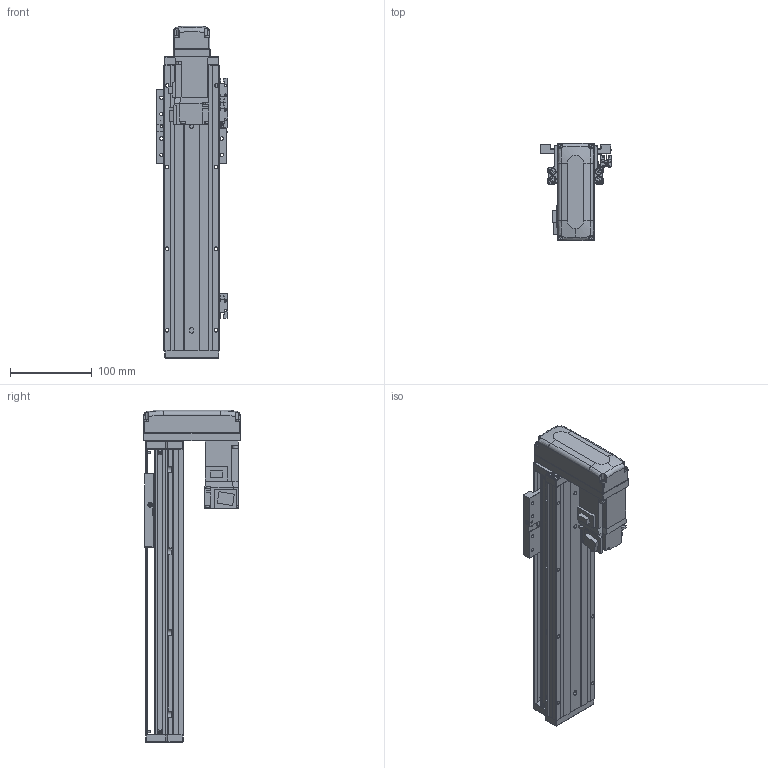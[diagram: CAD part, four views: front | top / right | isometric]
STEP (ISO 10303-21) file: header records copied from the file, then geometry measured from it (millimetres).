
FILE_DESCRIPTION (( 'STEP AP203' ), '1' );
FILE_NAME ('KTHAL60-200-BM-M10-C4L.step', '2022-03-19T08:40:30', ( '微软用户' ), ( '微软中国' ), 'SwSTEP 2.0', 'SolidWorks 2020', '' );
FILE_SCHEMA (( 'CONFIG_CONTROL_DESIGN' ));
Length unit declared in the file: millimetre
Products named in the file (18): KTHLA60-002; CTHA60-016; KTHA60-004; HG-KR13（三菱）; CTHA60-017; KTHA60-005; CTHA60-015-2_CTHA60-015-2; CTHA60-021; GB¨uT 70.2-M3¡Á5_M3¡Á6; CTHA60-033; GBT 70.1-M4×16; GBT 70.3-M3℅6; GBT 70.1-M3×15; GBT77-2000M3-3; EE_SX911P_R; KTHAL60-200-BM-M10-C4L; KTHA60-001_350; GBT 70.1-M3℅6
Assembly tree (51 placements, depth 2):
  KTHAL60-200-BM-M10-C4L
    KTHA60-001_350
    KTHLA60-002
    KTHA60-004
    KTHA60-005
    GB¨uT 70.2-M3¡Á5_M3¡Á6  x5
    GBT 70.3-M3℅6  x4
    EE_SX911P_R  x3
    CTHA60-017  x3
    CTHA60-021  x2
    GBT 70.1-M4×16  x10
    GBT77-2000M3-3  x6
    GBT 70.1-M3℅6  x6
    CTHA60-016
    HG-KR13（三菱）
    CTHA60-015-2_CTHA60-015-2
    CTHA60-033
    GBT 70.1-M3×15  x4
Bounding box: 87.82 x 120 x 407 mm (x, y, z)
Volume: 1043365.7 mm3; surface area: 256526 mm2
Topology: 54 solids, 54 shells, 2235 faces, 5275 edges, 3233 vertices
Faces by surface type: plane 1276, cylinder 541, cone 280, torus 98, bspline 26, sphere 14
Entity records: 38055 total; most frequent: CARTESIAN_POINT 7224, DIRECTION 5913, ORIENTED_EDGE 5694, EDGE_CURVE 2847, AXIS2_PLACEMENT_3D 1989, LINE 1935, VECTOR 1935, VERTEX_POINT 1782
